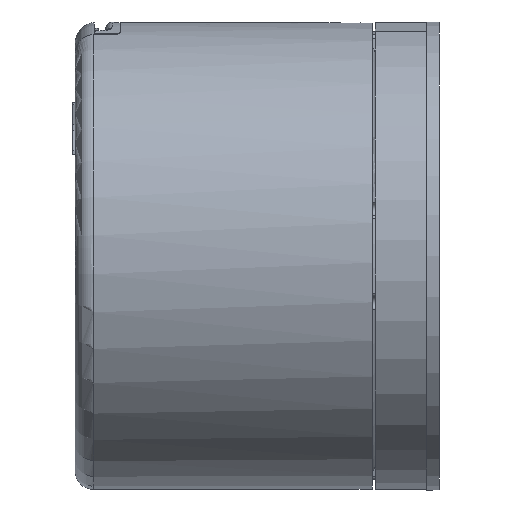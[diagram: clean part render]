
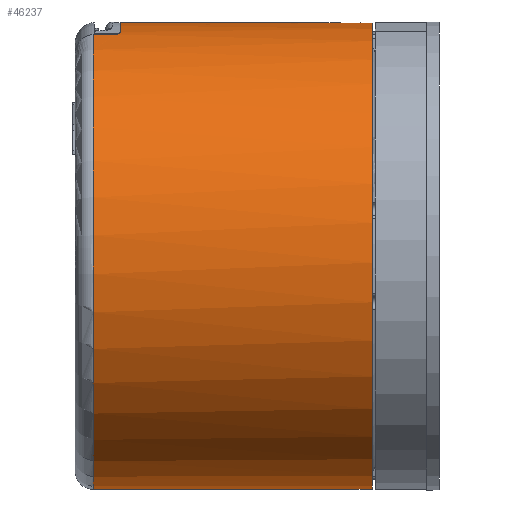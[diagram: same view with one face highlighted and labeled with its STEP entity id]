
A CAD part, left-side view. The second image highlights one B-rep face of the part: STEP entity #46237.
In plain terms, the highlighted cylindrical face has radius 18.2 mm (diameter 36.4 mm), a partial arc.
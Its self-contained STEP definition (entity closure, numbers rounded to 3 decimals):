
#246 = EDGE_CURVE ( 'NONE', #40656, #53883, #27930, .T. ) ;
#285 = CARTESIAN_POINT ( 'NONE',  ( -0.04, 3.45, 18.2 ) ) ;
#980 = CARTESIAN_POINT ( 'NONE',  ( 0., 0.25, -18.2 ) ) ;
#1275 = DIRECTION ( 'NONE',  ( 0., -1., 0. ) ) ;
#1393 = CARTESIAN_POINT ( 'NONE',  ( -0.04, 3.45, 18.2 ) ) ;
#1458 = EDGE_CURVE ( 'NONE', #45306, #9700, #29912, .T. ) ;
#1663 = ORIENTED_EDGE ( 'NONE', *, *, #8908, .T. ) ;
#2401 = B_SPLINE_CURVE_WITH_KNOTS ( 'NONE', 3,
 ( #28605, #45984, #22430, #54750, #37397, #5381, #40324, #1393 ),
 .UNSPECIFIED., .F., .F.,
 ( 4, 2, 2, 4 ),
 ( 0., 0., 0.001, 0.002 ),
 .UNSPECIFIED. ) ;
#2672 = CARTESIAN_POINT ( 'NONE',  ( -5.75, 22., 17.268 ) ) ;
#3446 = FACE_OUTER_BOUND ( 'NONE', #49351, .T. ) ;
#4203 = DIRECTION ( 'NONE',  ( 0., 1., 0. ) ) ;
#4577 = CARTESIAN_POINT ( 'NONE',  ( -1.04, 23.3, 18.17 ) ) ;
#4909 = CARTESIAN_POINT ( 'NONE',  ( -1.04, 2.45, 18.17 ) ) ;
#5381 = CARTESIAN_POINT ( 'NONE',  ( -0.563, 3.341, 18.192 ) ) ;
#5583 = DIRECTION ( 'NONE',  ( 0., -1., 0. ) ) ;
#5835 = VECTOR ( 'NONE', #5583, 1000. ) ;
#6230 = VECTOR ( 'NONE', #7271, 1000. ) ;
#7271 = DIRECTION ( 'NONE',  ( 0., -1., 0. ) ) ;
#7616 = CARTESIAN_POINT ( 'NONE',  ( -3.431, 19.9, 17.958 ) ) ;
#8908 = EDGE_CURVE ( 'NONE', #29492, #16540, #39769, .T. ) ;
#9154 = DIRECTION ( 'NONE',  ( 0., 0., -1. ) ) ;
#9348 = DIRECTION ( 'NONE',  ( 0., 0., -1. ) ) ;
#9700 = VERTEX_POINT ( 'NONE', #4909 ) ;
#9927 = CARTESIAN_POINT ( 'NONE',  ( 0., 3.45, 18.2 ) ) ;
#10758 = CARTESIAN_POINT ( 'NONE',  ( -5.75, 20.4, 17.268 ) ) ;
#10952 = LINE ( 'NONE', #28314, #6230 ) ;
#11613 = AXIS2_PLACEMENT_3D ( 'NONE', #43878, #22826, #9154 ) ;
#12091 = VECTOR ( 'NONE', #4203, 1000. ) ;
#13002 = ORIENTED_EDGE ( 'NONE', *, *, #33258, .F. ) ;
#13606 = ORIENTED_EDGE ( 'NONE', *, *, #48887, .T. ) ;
#14508 = EDGE_CURVE ( 'NONE', #40656, #18700, #23746, .T. ) ;
#15365 = VERTEX_POINT ( 'NONE', #9927 ) ;
#15981 = DIRECTION ( 'NONE',  ( 0., -1., 0. ) ) ;
#16540 = VERTEX_POINT ( 'NONE', #38822 ) ;
#16958 = ORIENTED_EDGE ( 'NONE', *, *, #31992, .F. ) ;
#18427 = VERTEX_POINT ( 'NONE', #285 ) ;
#18700 = VERTEX_POINT ( 'NONE', #10758 ) ;
#19346 = ORIENTED_EDGE ( 'NONE', *, *, #37565, .F. ) ;
#19492 = AXIS2_PLACEMENT_3D ( 'NONE', #32521, #49887, #29094 ) ;
#20238 = CARTESIAN_POINT ( 'NONE',  ( 0., 22., 0. ) ) ;
#20695 = CARTESIAN_POINT ( 'NONE',  ( -1.709, 19.9, 18.2 ) ) ;
#21766 = EDGE_CURVE ( 'NONE', #18700, #29492, #25819, .T. ) ;
#22430 = CARTESIAN_POINT ( 'NONE',  ( -1.014, 2.712, 18.172 ) ) ;
#22826 = DIRECTION ( 'NONE',  ( 0., 1., 0. ) ) ;
#23204 = ORIENTED_EDGE ( 'NONE', *, *, #14508, .T. ) ;
#23550 = ORIENTED_EDGE ( 'NONE', *, *, #21766, .T. ) ;
#23746 = B_SPLINE_CURVE_WITH_KNOTS ( 'NONE', 3,
 ( #24571, #28260, #54702, #31975, #24292, #32543 ),
 .UNSPECIFIED., .F., .F.,
 ( 4, 2, 4 ),
 ( 0., 0., 0.001 ),
 .UNSPECIFIED. ) ;
#24292 = CARTESIAN_POINT ( 'NONE',  ( -5.75, 20.265, 17.268 ) ) ;
#24525 = ORIENTED_EDGE ( 'NONE', *, *, #52333, .F. ) ;
#24571 = CARTESIAN_POINT ( 'NONE',  ( -5.25, 19.9, 17.426 ) ) ;
#24581 = CARTESIAN_POINT ( 'NONE',  ( -1.04, 0.25, 18.17 ) ) ;
#24672 = AXIS2_PLACEMENT_3D ( 'NONE', #27439, #1275, #49341 ) ;
#25819 = LINE ( 'NONE', #34594, #12091 ) ;
#26865 = EDGE_CURVE ( 'NONE', #16540, #42143, #27204, .T. ) ;
#27204 = LINE ( 'NONE', #44547, #5835 ) ;
#27439 = CARTESIAN_POINT ( 'NONE',  ( 0., 3.45, 0. ) ) ;
#27930 = CIRCLE ( 'NONE', #11613, 18.2 ) ;
#28260 = CARTESIAN_POINT ( 'NONE',  ( -5.38, 19.9, 17.387 ) ) ;
#28314 = CARTESIAN_POINT ( 'NONE',  ( 0., 23.3, 18.2 ) ) ;
#28605 = CARTESIAN_POINT ( 'NONE',  ( -1.04, 2.45, 18.17 ) ) ;
#28675 = CARTESIAN_POINT ( 'NONE',  ( 0., 19.9, 18.2 ) ) ;
#29094 = DIRECTION ( 'NONE',  ( 1., 0., 0. ) ) ;
#29473 = CIRCLE ( 'NONE', #19492, 18.2 ) ;
#29492 = VERTEX_POINT ( 'NONE', #2672 ) ;
#29912 = LINE ( 'NONE', #4577, #46835 ) ;
#30971 = CARTESIAN_POINT ( 'NONE',  ( 0., 23.3, 0. ) ) ;
#31975 = CARTESIAN_POINT ( 'NONE',  ( -5.693, 20.134, 17.287 ) ) ;
#31992 = EDGE_CURVE ( 'NONE', #53883, #32590, #45251, .T. ) ;
#32521 = CARTESIAN_POINT ( 'NONE',  ( 0., 0.25, 0. ) ) ;
#32543 = CARTESIAN_POINT ( 'NONE',  ( -5.75, 20.4, 17.268 ) ) ;
#32590 = VERTEX_POINT ( 'NONE', #51638 ) ;
#33258 = EDGE_CURVE ( 'NONE', #32590, #15365, #10952, .T. ) ;
#33315 = DIRECTION ( 'NONE',  ( 1., 0., 0. ) ) ;
#34594 = CARTESIAN_POINT ( 'NONE',  ( -5.75, 23.3, 17.268 ) ) ;
#37397 = CARTESIAN_POINT ( 'NONE',  ( -0.84, 3.065, 18.181 ) ) ;
#37470 = CARTESIAN_POINT ( 'NONE',  ( -5.094, 19.9, 17.473 ) ) ;
#37565 = EDGE_CURVE ( 'NONE', #15365, #18427, #45529, .T. ) ;
#38822 = CARTESIAN_POINT ( 'NONE',  ( 0., 22., -18.2 ) ) ;
#39769 = CIRCLE ( 'NONE', #54323, 18.2 ) ;
#40324 = CARTESIAN_POINT ( 'NONE',  ( -0.304, 3.45, 18.199 ) ) ;
#40656 = VERTEX_POINT ( 'NONE', #50382 ) ;
#40722 = ORIENTED_EDGE ( 'NONE', *, *, #1458, .T. ) ;
#41100 = CARTESIAN_POINT ( 'NONE',  ( -5.094, 19.9, 17.473 ) ) ;
#42143 = VERTEX_POINT ( 'NONE', #980 ) ;
#43266 = DIRECTION ( 'NONE',  ( 0., 1., 0. ) ) ;
#43878 = CARTESIAN_POINT ( 'NONE',  ( 0., 19.9, 0. ) ) ;
#44547 = CARTESIAN_POINT ( 'NONE',  ( 0., 23.3, -18.2 ) ) ;
#45251 = B_SPLINE_CURVE_WITH_KNOTS ( 'NONE', 3,
 ( #37470, #7616, #20695, #28675 ),
 .UNSPECIFIED., .F., .F.,
 ( 4, 4 ),
 ( 0., 0.5 ),
 .UNSPECIFIED. ) ;
#45306 = VERTEX_POINT ( 'NONE', #24581 ) ;
#45529 = CIRCLE ( 'NONE', #24672, 18.2 ) ;
#45984 = CARTESIAN_POINT ( 'NONE',  ( -1.04, 2.582, 18.17 ) ) ;
#46237 = ADVANCED_FACE ( 'NONE', ( #3446 ), #46966, .T. ) ;
#46835 = VECTOR ( 'NONE', #43266, 1000. ) ;
#46966 = CYLINDRICAL_SURFACE ( 'NONE', #50686, 18.2 ) ;
#47618 = ORIENTED_EDGE ( 'NONE', *, *, #246, .F. ) ;
#48333 = DIRECTION ( 'NONE',  ( 0., -1., 0. ) ) ;
#48511 = ORIENTED_EDGE ( 'NONE', *, *, #26865, .T. ) ;
#48887 = EDGE_CURVE ( 'NONE', #9700, #18427, #2401, .T. ) ;
#49341 = DIRECTION ( 'NONE',  ( 0., 0., -1. ) ) ;
#49351 = EDGE_LOOP ( 'NONE', ( #13002, #16958, #47618, #23204, #23550, #1663, #48511, #24525, #40722, #13606, #19346 ) ) ;
#49887 = DIRECTION ( 'NONE',  ( 0., -1., 0. ) ) ;
#50382 = CARTESIAN_POINT ( 'NONE',  ( -5.25, 19.9, 17.426 ) ) ;
#50686 = AXIS2_PLACEMENT_3D ( 'NONE', #30971, #48333, #9348 ) ;
#51638 = CARTESIAN_POINT ( 'NONE',  ( 0., 19.9, 18.2 ) ) ;
#52333 = EDGE_CURVE ( 'NONE', #45306, #42143, #29473, .T. ) ;
#53883 = VERTEX_POINT ( 'NONE', #41100 ) ;
#54323 = AXIS2_PLACEMENT_3D ( 'NONE', #20238, #15981, #33315 ) ;
#54702 = CARTESIAN_POINT ( 'NONE',  ( -5.506, 19.951, 17.347 ) ) ;
#54750 = CARTESIAN_POINT ( 'NONE',  ( -0.914, 2.954, 18.177 ) ) ;
